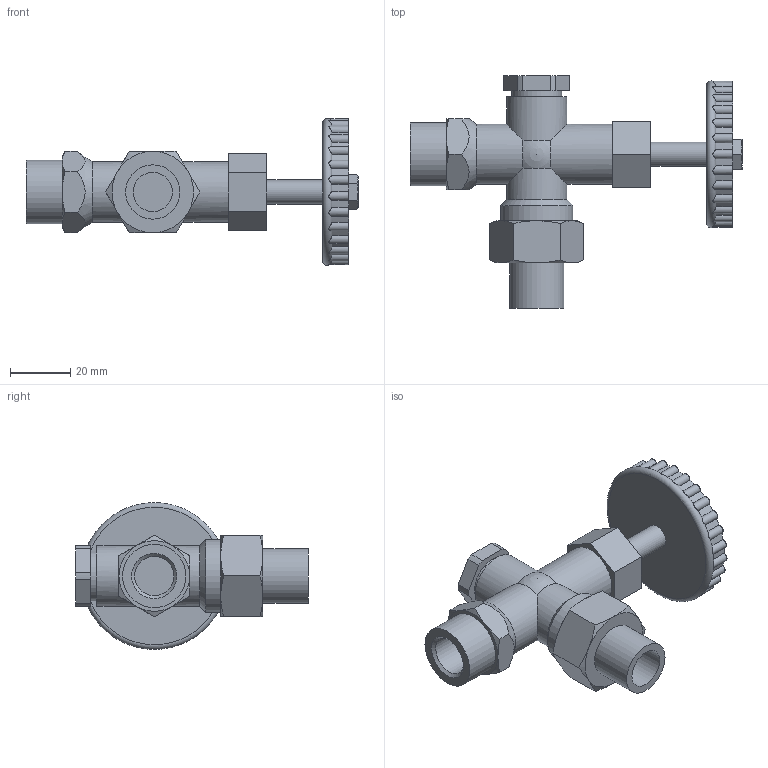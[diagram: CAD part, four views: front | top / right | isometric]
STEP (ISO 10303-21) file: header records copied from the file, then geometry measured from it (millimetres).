
FILE_DESCRIPTION(/* description */ (''),/* implementation_level */ '2;1');
FILE_NAME(/* name */ '576BO-015-PN10.stp',/* time_stamp */ '2024-08-15T19:34:33+02:00',/* author */ ('roger.thijssen'),/* organization */ (''),/* preprocessor_version */ 'ST-DEVELOPER v20',/* originating_system */ 'Autodesk Inventor 2024',/* authorisation */ '');
FILE_SCHEMA (('AUTOMOTIVE_DESIGN { 1 0 10303 214 3 1 1 }'));
Length unit declared in the file: millimetre
Products named in the file (1): 576BO-015-PN10
Bounding box: 110 x 77 x 48.6 mm (x, y, z)
Volume: 58327.7 mm3; surface area: 19633.2 mm2
Topology: 1 solids, 1 shells, 183 faces, 486 edges, 315 vertices
Faces by surface type: cylinder 72, plane 46, cone 33, torus 30, sphere 2
Full cylindrical faces by diameter (mm): 8 x1, 13 x2, 16.5 x1, 18 x1, 20 x4, 21 x1, 24 x1, 32 x1
Entity records: 6969 total; most frequent: CARTESIAN_POINT 2356, ORIENTED_EDGE 968, DIRECTION 905, EDGE_CURVE 484, AXIS2_PLACEMENT_3D 385, VERTEX_POINT 315, EDGE_LOOP 195, CIRCLE 194
